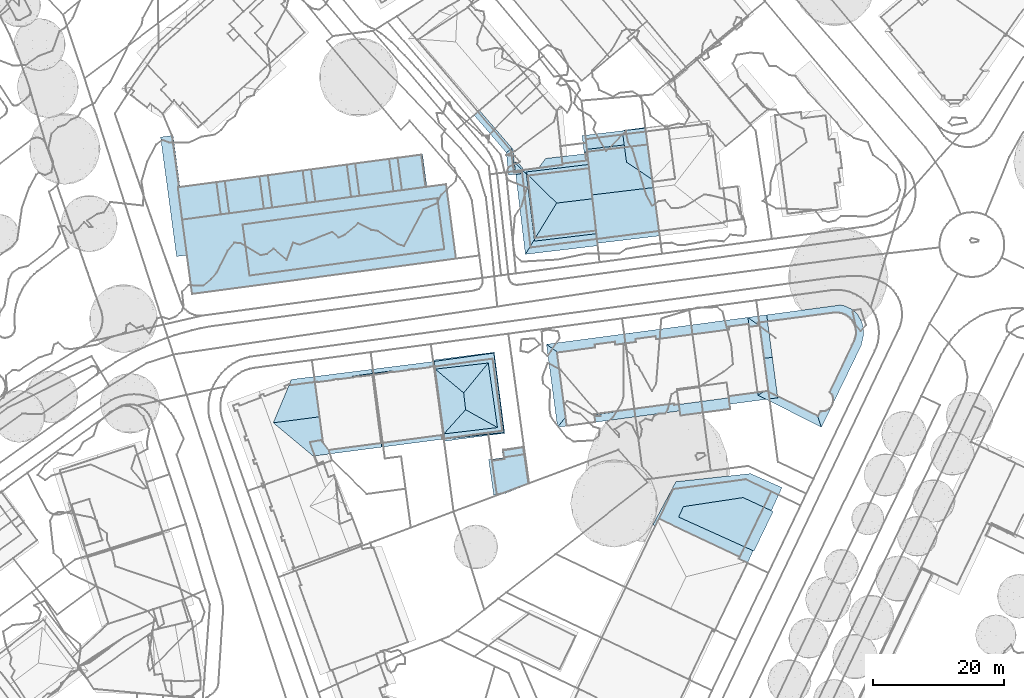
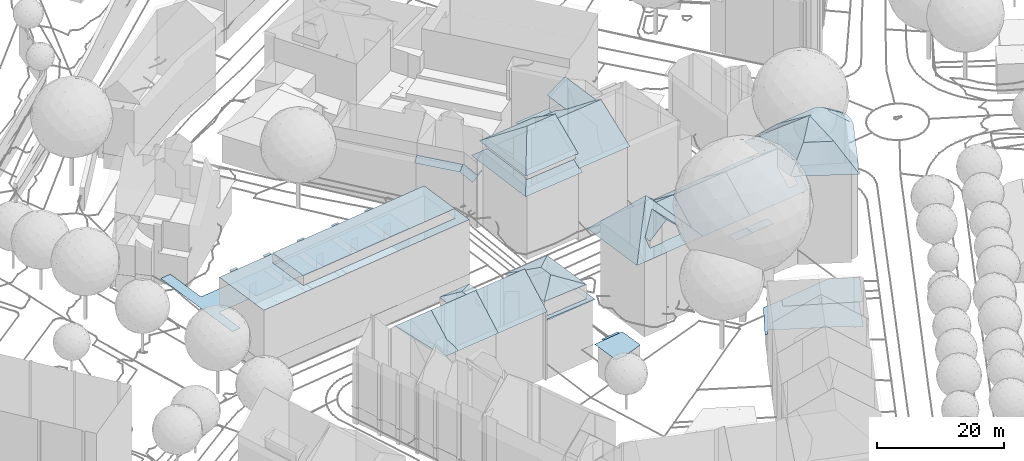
# Not in any storey, part 79 of 477: 29 roofs.
"""IFC4 building model written with IfcOpenShell, lengths in metres."""

from ifc_helpers import new_model, si_unit, frame, origin_with_axes, place, context, subcontext, project, spatial, polygons, element, save


model = new_model("IFC4")

# Units and contexts
model_context = context("Model", 3, precision=1e-05, world=origin_with_axes())
body_context = subcontext(model_context, "Body", "Model", "MODEL_VIEW")
ifc_project = project(units=[si_unit("AREAUNIT", "SQUARE_METRE"), si_unit("LENGTHUNIT", "METRE")], contexts=[model_context])

# Sites, building
site_1_placement = place(None, origin_with_axes())
site_1 = spatial("IfcSite", under=ifc_project, at=site_1_placement, Name="Topoexport Site")
site_2_placement = place(site_1_placement, origin_with_axes())
site_2 = spatial("IfcSite", under=site_1, at=site_2_placement, Name="TPX_BUILDINGS")
building_1_placement = place(site_2_placement, frame((511.1767320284, 156.3465160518, 499.6435), z_axis=(0.0, 0.0, 1.0), x_axis=(1.0, 0.0, 0.0)))
building_1 = spatial("IfcBuilding", under=site_2, at=building_1_placement, Name="Building 19", CompositionType="ELEMENT")

# Roofs
roof_1_placement = place(None, frame((511.1767320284, 156.3465160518, 499.6435), z_axis=(0.0, 0.0, 1.0), x_axis=(1.0, 0.0, 0.0)))
element("IfcRoof", 1, at=roof_1_placement, inside=building_1, Name="Roof 0", context=body_context, shape_type="Tessellation", body=[
    polygons([(2.057, -4.9600000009, 6.2974), (-0.5510000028, 0.183600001, 6.2974), (5.6009999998, -3.5645000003, 6.2974), (4.936999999, 0.9834000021, 6.2974), (0.2249999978, -5.2216999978, 6.2974)], [[[3, 2, 1]], [[3, 4, 2]], [[1, 2, 5]]]),
])
roof_2_placement = place(None, frame((511.1767320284, 156.3465160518, 499.6435), z_axis=(0.0, 0.0, 1.0), x_axis=(1.0, 0.0, 0.0)))
element("IfcRoof", 2, at=roof_2_placement, inside=building_1, Name="Roof 1", context=body_context, shape_type="Tessellation", body=[
    polygons([(4.7589999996, 2.067400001, 5.7094), (1.6519999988, 0.495099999, 5.7094), (1.4909999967, 1.5547000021, 5.7095), (4.936999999, 0.9834000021, 5.7094)], [[[3, 2, 1]], [[4, 1, 2]]]),
])

# Building
building_2_placement = place(site_2_placement, frame((541.9047320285, 175.7068160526, 499.9965), z_axis=(0.0, 0.0, 1.0), x_axis=(1.0, 0.0, 0.0)))
building_2 = spatial("IfcBuilding", under=site_2, at=building_2_placement, Name="Building 34", CompositionType="ELEMENT")

# Roofs
roof_3_placement = place(None, frame((541.9047320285, 175.7068160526, 499.9965), z_axis=(0.0, 0.0, 1.0), x_axis=(1.0, 0.0, 0.0)))
element("IfcRoof", 3, at=roof_3_placement, inside=building_2, Name="Roof 0", context=body_context, shape_type="Tessellation", body=[
    polygons([(5.7719999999, -11.4081999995, 11.4488), (1.3649999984, -10.2342999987, 11.4488), (5.5399999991, -9.6748000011, 11.4488), (1.5959999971, -11.9668000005, 11.4488)], [[[3, 2, 1]], [[1, 2, 4]]]),
])
roof_4_placement = place(None, frame((541.9047320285, 175.7068160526, 499.9965), z_axis=(0.0, 0.0, 1.0), x_axis=(1.0, 0.0, 0.0)))
element("IfcRoof", 4, at=roof_4_placement, inside=building_2, Name="Roof 1", context=body_context, shape_type="Tessellation", body=[
    polygons([(9.2049999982, 1.2256000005, 18.2712), (9.0219999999, -1.7421000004, 17.7032), (8.5829999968, 1.6055000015, 17.7033), (8.4479999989, 2.6367999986, 17.7033), (10.9149999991, -3.6464000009, 19.3361), (10.6679999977, -1.5029000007, 19.3701), (9.9579999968, -8.871100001, 17.7032), (9.5659999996, -5.8876999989, 17.7032), (10.8699999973, -8.7490000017, 18.6261), (10.0119999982, -9.2822000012, 17.7032), (11.5799999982, -8.308600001, 19.3891), (9.5139999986, 1.8456999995, 18.4682), (10.2969999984, 1.2657000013, 19.0301), (9.9729999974, 1.5058999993, 18.7971), (11.7059999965, -9.2430999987, 18.5372), (11.8349999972, -10.2080000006, 17.7032), (13.0259999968, -9.683600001, 14.3306), (1.4969999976, -11.2254999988, 14.3306), (9.9579999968, -8.871100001, 15.2985), (9.5989999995, -6.1356999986, 17.5033), (0.6689999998, -5.0166000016, 19.3361), (11.6259999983, -8.6484000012, 15.2985), (12.1959999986, -3.4754999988, 19.3361), (10.9809999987, -3.8379000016, 19.1771), (10.9549999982, -3.6416000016, 19.3361), (10.2219999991, 1.8262000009, 15.1235), (9.9349999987, 1.7881000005, 15.1235), (11.3269999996, 3.0214999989, 14.3306), (10.9269999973, -3.433600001, 19.1751), (8.6169999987, 1.6114000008, 15.1245), (8.5829999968, 1.6055000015, 15.1245), (8.6779999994, 1.1552999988, 15.4755), (-0.1980000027, 1.4805000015, 14.3306), (0.0, 0.0, 15.4715), (8.987999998, -1.4824000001, 17.5033), (9.9959999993, 1.3321000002, 15.4745), (10.2219999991, 1.8262000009, 18.7871), (10.0839999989, 2.8555000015, 17.7033), (10.2969999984, 1.2657000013, 19.3771), (9.9729999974, 1.5058999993, 19.0831)], [[[3, 2, 1]], [[3, 1, 4]], [[6, 1, 5]], [[9, 8, 7]], [[9, 7, 10]], [[5, 9, 11]], [[2, 5, 1]], [[5, 11, 6]], [[5, 8, 9]], [[4, 1, 12]], [[12, 1, 6]], [[14, 6, 13]], [[6, 14, 12]], [[9, 10, 15]], [[15, 11, 9]], [[10, 16, 15]], [[19, 18, 17]], [[18, 19, 20]], [[21, 20, 8]], [[20, 21, 18]], [[5, 21, 8]], [[17, 22, 19]], [[23, 22, 17]], [[23, 25, 24]], [[22, 23, 24]], [[28, 27, 26]], [[23, 29, 25]], [[29, 23, 26]], [[28, 26, 23]], [[28, 31, 30]], [[30, 27, 28]], [[30, 32, 27]], [[33, 31, 28]], [[34, 31, 33]], [[35, 34, 21]], [[2, 21, 5]], [[21, 2, 35]], [[31, 34, 35]], [[27, 32, 36]], [[38, 4, 37]], [[37, 40, 39]], [[40, 37, 4]]]),
])

# Building
building_3_placement = place(site_2_placement, frame((531.628732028, 174.3367160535, 499.9965), z_axis=(0.0, 0.0, 1.0), x_axis=(1.0, 0.0, 0.0)))
building_3 = spatial("IfcBuilding", under=site_2, at=building_3_placement, Name="Building 35", CompositionType="ELEMENT")

# Roofs
roof_5_placement = place(None, frame((531.628732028, 174.3367160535, 499.9965), z_axis=(0.0, 0.0, 1.0), x_axis=(1.0, 0.0, 0.0)))
element("IfcRoof", 5, at=roof_5_placement, inside=building_3, Name="Roof 0", context=body_context, shape_type="Tessellation", body=[
    polygons([(8.4100000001, -11.0595000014, 11.4488), (8.1779999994, -9.3271000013, 11.4488), (11.8719999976, -10.5967000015, 11.4488), (11.6409999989, -8.8641999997, 11.4488)], [[[3, 2, 1]], [[3, 4, 2]]]),
])
roof_6_placement = place(None, frame((531.628732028, 174.3367160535, 499.9965), z_axis=(0.0, 0.0, 1.0), x_axis=(1.0, 0.0, 0.0)))
element("IfcRoof", 6, at=roof_6_placement, inside=building_3, Name="Roof 1", context=body_context, shape_type="Tessellation", body=[
    polygons([(11.7729999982, -9.8553999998, 14.3306), (1.5159999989, -11.2265000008, 14.3306), (11.6409999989, -8.8641999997, 15.1295), (10.9450000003, -3.6465000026, 19.3361), (1.3530000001, -10.0175999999, 15.3055), (0.6779999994, -5.0175999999, 19.3361), (10.2760000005, 1.370099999, 15.4715), (10.0779999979, 2.8506000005, 14.3306), (0.0, 0.0, 15.4685), (-0.199000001, 1.4756000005, 14.3306)], [[[3, 2, 1]], [[5, 3, 4]], [[6, 5, 4]], [[5, 2, 3]], [[7, 6, 4]], [[9, 7, 8]], [[7, 9, 6]], [[9, 8, 10]]]),
])

# Building
building_4_placement = place(site_2_placement, frame((521.1327320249, 172.9256160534, 499.9965), z_axis=(0.0, 0.0, 1.0), x_axis=(1.0, 0.0, 0.0)))
building_4 = spatial("IfcBuilding", under=site_2, at=building_4_placement, Name="Building 36", CompositionType="ELEMENT")

# Roof
roof_7_placement = place(None, frame((521.1327320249, 172.9256160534, 499.9965), z_axis=(0.0, 0.0, 1.0), x_axis=(1.0, 0.0, 0.0)))
element("IfcRoof", 7, at=roof_7_placement, inside=building_4, Name="Roof 0", context=body_context, shape_type="Tessellation", body=[
    polygons([(3.1810000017, -8.5811000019, 16.8813), (6.1230000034, -5.6162, 19.5961), (6.626000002, -9.379900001, 19.5961), (3.3460000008, -9.8164000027, 16.8813), (10.3740000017, 2.3154000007, 14.7715), (10.4740000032, 1.5722999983, 15.3445), (8.870000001, 1.6561999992, 15.1185), (5.7780000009, 1.2412, 15.1195), (10.3840000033, 1.3964999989, 15.4685), (8.9310000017, 1.2011999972, 15.4685), (0.1650000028, 0.0224999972, 15.4735), (-0.9459999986, 0.8007999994, 14.7716), (5.8390000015, 0.7850999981, 15.4705), (0.0, 0.0, 15.3565), (0.8020000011, -10.5557000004, 14.9315), (1.3270000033, -9.9530999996, 15.3545), (0.5950000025, -10.7363000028, 14.7705), (5.7040000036, -9.4326000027, 15.3015), (11.8490000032, -8.6064999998, 15.3055), (11.9110000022, -9.0692999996, 14.9325), (5.7660000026, -9.8925999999, 14.9315), (11.8110000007, -8.3280999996, 15.5305), (7.745000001, -4.0654000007, 19.3361), (11.1740000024, -3.6064999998, 19.3361), (10.5090000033, 1.3134999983, 15.5445), (1.3980000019, -10.4766000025, 14.9305), (8.1610000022, -7.0117000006, 17.8332), (6.6166000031, -9.3095999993, 19.5961), (9.2630000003, -7.7666000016, 16.8813), (9.4290000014, -9.004900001, 16.8813), (1.3120000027, -9.8368999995, 15.8194), (-1.6439999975, 1.2899999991, 14.3306), (0.1640000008, 0.0224999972, 15.9914), (5.939000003, -4.0293000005, 21.2969), (0.0550000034, -11.4150000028, 14.3306), (11.7590000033, -8.6192000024, 15.6295), (13.0930000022, -9.6709000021, 14.3306), (5.8660000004, -10.6377000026, 14.3306), (9.4190000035, -8.933600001, 15.6275), (9.2880000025, -7.9530999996, 16.6814), (5.7130000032, -9.5020000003, 15.5515), (5.7040000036, -9.4326000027, 15.6255), (3.3460000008, -9.8164000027, 15.5525), (1.4970000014, -11.2217000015, 14.3306), (3.2060000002, -8.7666000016, 16.6814), (11.7780000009, -8.0800999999, 15.5305), (10.5440000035, 1.0537, 15.5435), (11.3940000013, 3.0341999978, 14.3306), (10.0990000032, 1.3583999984, 15.9834)], [[[3, 2, 1]], [[3, 1, 4]], [[7, 6, 5]], [[5, 8, 7]], [[6, 7, 9]], [[10, 9, 7]], [[8, 12, 11]], [[5, 12, 8]], [[11, 13, 8]], [[12, 14, 11]], [[14, 12, 15]], [[14, 15, 16]], [[15, 12, 17]], [[20, 19, 18]], [[18, 21, 20]], [[24, 23, 22]], [[24, 25, 23]], [[16, 15, 26]], [[2, 28, 27]], [[27, 28, 3]], [[30, 29, 3]], [[3, 29, 27]], [[33, 32, 31]], [[33, 31, 34]], [[31, 32, 35]], [[38, 37, 36]], [[38, 36, 39]], [[29, 36, 27]], [[40, 36, 29]], [[38, 39, 41]], [[42, 41, 39]], [[39, 36, 40]], [[38, 41, 43]], [[2, 34, 1]], [[34, 2, 27]], [[27, 36, 34]], [[1, 34, 31]], [[44, 43, 31]], [[44, 38, 43]], [[44, 31, 35]], [[31, 43, 45]], [[31, 45, 1]], [[37, 22, 36]], [[22, 37, 46]], [[22, 23, 36]], [[36, 23, 34]], [[37, 47, 46]], [[47, 48, 25]], [[48, 47, 37]], [[49, 34, 23]], [[23, 25, 49]], [[49, 25, 48]], [[49, 48, 33]], [[33, 34, 49]], [[32, 33, 48]]]),
])

# Building
building_5_placement = place(site_2_placement, frame((552.1267320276, 177.5330160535, 499.9185), z_axis=(0.0, 0.0, 1.0), x_axis=(1.0, 0.0, 0.0)))
building_5 = spatial("IfcBuilding", under=site_2, at=building_5_placement, Name="Building 37", CompositionType="ELEMENT")

# Roof
roof_8_placement = place(None, frame((552.1267320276, 177.5330160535, 499.9185), z_axis=(0.0, 0.0, 1.0), x_axis=(1.0, 0.0, 0.0)))
element("IfcRoof", 8, at=roof_8_placement, inside=building_5, Name="Roof 0", context=body_context, shape_type="Tessellation", body=[
    polygons([(14.0079999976, 0.5605999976, 18.7091), (15.0209999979, 1.3105999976, 17.7812), (14.0759999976, 0.4804999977, 18.6951), (12.0889999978, -1.2646000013, 20.615), (10.7809999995, -1.8525000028, 21.6739), (14.5469999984, -0.259800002, 18.6591), (15.6499999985, 0.191399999, 17.7812), (14.7559999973, -0.9189000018, 18.6462), (15.9289999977, -0.7685000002, 17.7812), (14.7740000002, -1.0117000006, 18.6551), (11.2899999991, -2.808600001, 21.6739), (12.9600000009, -2.0391000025, 20.261), (14.8029999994, -1.25, 18.7211), (14.7760000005, -1.9891999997, 18.7451), (15.930999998, -1.9570000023, 17.7812), (14.7410000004, -2.1757999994, 18.7801), (12.3939999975, 1.4736000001, 18.7711), (9.8350000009, -1.4530999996, 21.6739), (12.9450000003, 2.6083999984, 17.7812), (13.2100000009, 1.1757999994, 18.7231), (13.9849999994, 2.1415999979, 17.7812), (11.6449999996, 1.5351999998, 18.8721), (12.3499999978, 2.6983000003, 17.7812), (13.5099999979, 0.990199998, 18.7101), (14.3649999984, 1.8817999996, 17.7812), (14.175999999, -3.5419999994, 19.0551), (11.1559999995, -12.6357000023, 17.7812), (7.7210000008, -10.9365000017, 21.6739), (11.243999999, -3.6766999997, 21.6739), (15.6009999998, -3.4775000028, 17.7812), (8.8770000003, -14.2539000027, 19.1421), (9.498999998, -16.0381000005, 17.7812), (14.3029999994, -3.2763999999, 18.9531), (6.5009999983, -5.4297000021, 23.7087), (2.5260000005, -2.3779000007, 21.6739), (3.4120000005, -8.8594000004, 21.6739), (1.3579999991, -10.134800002, 19.4671), (1.4279999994, -10.6562000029, 18.9911), (1.4839999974, -11.0713, 18.6132), (1.612999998, -12.0342000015, 17.7812), (0.4459999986, -3.3291000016, 19.4481), (0.0789999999, -0.5859000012, 19.1081), (2.8000000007, -2.6387000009, 21.0569), (9.5969999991, 1.2753999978, 18.8721), (-0.1380000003, 1.0293000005, 17.7813), (0.0, 0.0, 18.8651), (0.0789999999, -0.563500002, 19.4551), (0.0789999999, -0.5859000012, 19.4551), (2.5260000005, -2.3779000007, 21.4739), (0.0789999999, -0.5859000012, 19.2551), (6.5009999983, -5.4297000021, 23.5087)], [[[3, 2, 1]], [[5, 4, 3]], [[5, 3, 1]], [[3, 4, 6]], [[7, 2, 3]], [[7, 3, 6]], [[4, 5, 8]], [[10, 9, 8]], [[10, 8, 5]], [[6, 4, 8]], [[9, 7, 6]], [[9, 6, 8]], [[12, 5, 11]], [[9, 10, 13]], [[13, 5, 12]], [[5, 13, 10]], [[12, 11, 14]], [[16, 15, 14]], [[16, 14, 11]], [[12, 14, 13]], [[13, 15, 9]], [[15, 13, 14]], [[18, 5, 17]], [[18, 17, 19]], [[17, 5, 20]], [[21, 19, 17]], [[21, 17, 20]], [[22, 18, 19]], [[19, 23, 22]], [[20, 5, 24]], [[25, 21, 20]], [[25, 20, 24]], [[24, 5, 1]], [[2, 25, 24]], [[2, 24, 1]], [[28, 27, 26]], [[28, 26, 29]], [[26, 27, 30]], [[32, 27, 31]], [[28, 31, 27]], [[30, 33, 26]], [[26, 11, 29]], [[11, 26, 33]], [[30, 15, 33]], [[16, 11, 33]], [[16, 33, 15]], [[11, 34, 29]], [[18, 35, 34]], [[5, 34, 11]], [[34, 5, 18]], [[28, 29, 34]], [[28, 34, 36]], [[38, 28, 37]], [[28, 36, 37]], [[28, 38, 39]], [[39, 40, 31]], [[31, 28, 39]], [[32, 31, 40]], [[41, 37, 36]], [[36, 34, 41]], [[43, 42, 41]], [[43, 41, 34]], [[22, 23, 44]], [[35, 18, 22]], [[35, 22, 44]], [[44, 23, 45]], [[44, 46, 35]], [[46, 44, 45]], [[35, 46, 47]], [[48, 34, 35]], [[50, 49, 43]], [[51, 43, 49]]]),
])

# Building
building_6_placement = place(site_2_placement, frame((509.0277320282, 209.8641160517, 500.1695), z_axis=(0.0, 0.0, 1.0), x_axis=(1.0, 0.0, 0.0)))
building_6 = spatial("IfcBuilding", under=site_2, at=building_6_placement, Name="Building 79", CompositionType="ELEMENT")

# Roof
roof_9_placement = place(None, frame((509.0277320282, 209.8641160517, 500.1695), z_axis=(0.0, 0.0, 1.0), x_axis=(1.0, 0.0, 0.0)))
element("IfcRoof", 9, at=roof_9_placement, inside=building_6, Name="Roof 0", context=body_context, shape_type="Tessellation", body=[
    polygons([(5.6569999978, -9.3594000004, 10.184), (6.4579999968, -9.2714999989, 10.841), (6.4839999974, -9.5458999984, 10.841), (4.9479999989, -5.8213, 9.8761), (4.6319999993, -9.7188000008, 9.3241), (4.3099999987, -6.2665999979, 9.3241), (5.2179999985, -5.6338, 10.109), (5.3200000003, -5.7509999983, 10.183), (0.2089999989, 0.1777000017, 10.1091), (0.0, 0.0, 9.9131), (-0.6290000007, -0.5370999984, 9.3241)], [[[3, 2, 1]], [[5, 1, 4]], [[5, 3, 1]], [[5, 4, 6]], [[8, 7, 4]], [[8, 4, 1]], [[4, 7, 9]], [[6, 4, 10]], [[10, 11, 6]], [[9, 10, 4]]]),
])

# Building
building_7_placement = place(site_2_placement, frame((525.5527320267, 205.6209160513, 499.3996), z_axis=(0.0, 0.0, 1.0), x_axis=(1.0, 0.0, 0.0)))
building_7 = spatial("IfcBuilding", under=site_2, at=building_7_placement, Name="Building 81", CompositionType="ELEMENT")

# Roofs
roof_10_placement = place(None, frame((525.5527320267, 205.6209160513, 499.3996), z_axis=(0.0, 0.0, 1.0), x_axis=(1.0, 0.0, 0.0)))
element("IfcRoof", 10, at=roof_10_placement, inside=building_7, Name="Roof 0", context=body_context, shape_type="Tessellation", body=[
    polygons([(5.6440000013, 0.7178000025, 13.9586), (9.1259999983, 1.7393000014, 13.9586), (9.2019999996, 1.1709000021, 13.9586), (0.1700000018, -1.5302999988, 13.9586), (5.8520000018, -0.8506000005, 13.9586), (-0.6050000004, 0.5742000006, 13.9586), (-0.2980000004, -1.9882999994, 13.9586), (0.2149999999, -1.9267999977, 13.9586)], [[[3, 2, 1]], [[5, 1, 4]], [[2, 6, 1]], [[4, 6, 7]], [[6, 4, 1]], [[7, 8, 4]]]),
])
roof_11_placement = place(None, frame((525.5527320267, 205.6209160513, 499.3996), z_axis=(0.0, 0.0, 1.0), x_axis=(1.0, 0.0, 0.0)))
element("IfcRoof", 11, at=roof_11_placement, inside=building_7, Name="Roof 1", context=body_context, shape_type="Tessellation", body=[
    polygons([(5.6440000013, 0.7178000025, 16.5954), (5.5579999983, 1.3652000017, 16.5954), (9.1119999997, 1.8368999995, 18.6182), (9.2019999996, 1.1709000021, 18.6182), (10.1770000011, -6.1688999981, 18.6182), (6.2019999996, -3.4872999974, 16.5954), (1.2019999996, -14.5029000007, 15.4795), (1.6099999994, -14.4540999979, 15.4795), (1.3779999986, -15.9696999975, 14.5096), (11.2259999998, -14.0683999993, 14.9795), (10.3379999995, -7.3817999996, 19.4071), (0.9479999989, -8.5067999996, 19.4071), (11.3200000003, -14.7782999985, 14.5095), (0.1700000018, -1.5302999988, 14.8795), (0.4279999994, -3.8436999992, 16.3814), (-0.3460000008, -1.5918000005, 14.8795), (-0.0689999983, -3.9043000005, 16.3814), (5.8520000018, -0.8506000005, 14.8805), (6.1609999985, -3.1787, 16.3954)], [[[3, 2, 1]], [[3, 1, 4]], [[4, 6, 5]], [[6, 4, 1]], [[9, 8, 7]], [[9, 10, 8]], [[8, 10, 11]], [[8, 11, 12]], [[13, 10, 9]], [[16, 15, 14]], [[15, 16, 17]], [[18, 14, 15]], [[15, 12, 6]], [[5, 6, 12]], [[15, 19, 18]], [[19, 15, 6]], [[5, 12, 11]]]),
])

# Building
building_8_placement = place(site_2_placement, frame((514.7257320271, 200.7361160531, 500.1685), z_axis=(0.0, 0.0, 1.0), x_axis=(1.0, 0.0, 0.0)))
building_8 = spatial("IfcBuilding", under=site_2, at=building_8_placement, Name="Building 82", CompositionType="ELEMENT")

# Roofs
roof_12_placement = place(None, frame((514.7257320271, 200.7361160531, 500.1685), z_axis=(0.0, 0.0, 1.0), x_axis=(1.0, 0.0, 0.0)))
element("IfcRoof", 12, at=roof_12_placement, inside=building_8, Name="Roof 0", context=body_context, shape_type="Tessellation", body=[
    polygons([(6.3260000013, -4.8759000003, 20.1511), (12.436999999, -9.5692999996, 16.5144), (2.9069999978, -10.4774999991, 16.6704), (2.256000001, -11.5439000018, 16.0074), (12.5199999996, -10.3154000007, 16.0074), (11.8409999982, -4.2168000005, 20.1511), (11.254999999, 1.0410000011, 16.5214), (11.1719999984, 1.7841999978, 16.0075), (1.6660000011, -0.2987999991, 16.6514), (0.8090000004, 0.5439999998, 16.0075)], [[[3, 2, 1]], [[5, 3, 4]], [[2, 6, 1]], [[2, 3, 5]], [[7, 1, 6]], [[9, 7, 8]], [[7, 9, 1]], [[9, 8, 10]], [[9, 10, 4]], [[3, 1, 9]], [[4, 3, 9]]]),
])
roof_13_placement = place(None, frame((514.7257320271, 200.7361160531, 500.1685), z_axis=(0.0, 0.0, 1.0), x_axis=(1.0, 0.0, 0.0)))
element("IfcRoof", 13, at=roof_13_placement, inside=building_8, Name="Roof 1", context=body_context, shape_type="Tessellation", body=[
    polygons([(10.7399999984, 2.6855999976, 13.0247), (11.068, 2.7245999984, 13.0247), (11.1519999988, 1.9648999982, 13.6867), (11.254999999, 1.0410999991, 14.4916), (3.5219999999, 0.4638999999, 14.1916), (4.623999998, 1.9531999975, 13.0248), (-0.1649999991, 1.379900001, 13.0248), (0.3509999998, 1.441399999, 13.0248), (1.0760000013, 0.1415999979, 14.2166), (1.6429999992, -0.1112999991, 14.4916), (1.686999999, -0.4686999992, 14.8036), (1.3460000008, 0.1767999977, 14.2136), (2.9160000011, -10.4638000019, 14.8386), (2.9349999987, -10.7070000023, 14.6266), (2.3220000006, -11.4365000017, 14.0636), (12.6420000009, -11.4090999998, 13.0247), (1.5260000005, -12.7402000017, 13.0247), (12.5300000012, -10.4033000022, 13.9006), (12.436999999, -9.5692999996, 14.6266), (0.0269999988, -0.2246000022, 13.0248), (0.0, 0.0, 13.0248)], [[[3, 2, 1]], [[5, 4, 3]], [[3, 1, 6]], [[6, 5, 3]], [[9, 8, 7]], [[11, 10, 9]], [[12, 9, 10]], [[9, 12, 8]], [[10, 5, 12]], [[10, 4, 5]], [[15, 14, 13]], [[15, 17, 16]], [[15, 18, 14]], [[18, 15, 16]], [[14, 18, 19]], [[21, 20, 9]], [[9, 7, 21]], [[20, 15, 9]], [[13, 9, 15]], [[11, 9, 13]], [[15, 20, 17]]]),
])

# Building
building_9_placement = place(site_2_placement, frame((463.0307320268, 198.249816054, 500.4205), z_axis=(0.0, 0.0, 1.0), x_axis=(1.0, 0.0, 0.0)))
building_9 = spatial("IfcBuilding", under=site_2, at=building_9_placement, Name="Building 89", CompositionType="ELEMENT")

# Roofs
roof_14_placement = place(None, frame((463.0307320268, 198.249816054, 500.4205), z_axis=(0.0, 0.0, 1.0), x_axis=(1.0, 0.0, 0.0)))
element("IfcRoof", 14, at=roof_14_placement, inside=building_9, Name="Roof 0", context=body_context, shape_type="Tessellation", body=[
    polygons([(0.6629999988, -4.9492000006, 5.7815), (1.3889999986, -10.3662, 5.7815), (-0.2199999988, -10.5820000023, 5.7815), (-2.6710000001, 7.7206999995, 5.7815), (7.2129999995, 0.9677999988, 5.7815), (13.1790000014, -3.2734000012, 5.7815), (7.8759999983, -3.9834000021, 5.7815), (6.5870000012, -4.1562000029, 5.7815), (5.9239999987, 0.7949000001, 5.7815), (-0.7470000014, 7.9784999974, 5.7815), (0.2980000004, 0.1796999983, 5.7815), (13.8040000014, 1.8524999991, 5.7815), (12.5159999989, 1.6796999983, 5.7815), (19.1369999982, 2.5683999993, 5.7815), (37.4679999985, 5.1581999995, 5.7814), (19.8000000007, -2.3857000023, 5.7815), (14.4679999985, -3.1006000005, 5.7815), (21.0890000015, -2.2129000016, 5.7814), (20.425999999, 2.7412, 5.7815), (26.5670000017, -1.4805000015, 5.7814), (33.0500000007, -0.6113000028, 5.7814), (27.8550000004, -1.3066000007, 5.7814), (27.1909999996, 3.6484999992, 5.7815), (34.3390000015, -0.4394000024, 5.7814), (33.6750000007, 4.5185999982, 5.7814), (38.1490000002, 0.0722999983, 5.7814), (25.9030000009, 3.4755999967, 5.7815), (32.3859999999, 4.3456999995, 5.7814)], [[[3, 2, 1]], [[3, 1, 4]], [[7, 6, 5]], [[9, 1, 8]], [[4, 11, 10]], [[11, 4, 1]], [[9, 5, 11]], [[13, 12, 11]], [[12, 14, 11]], [[5, 6, 13]], [[5, 13, 11]], [[11, 1, 9]], [[14, 15, 11]], [[17, 16, 12]], [[20, 19, 18]], [[23, 22, 21]], [[26, 25, 24]], [[20, 27, 19]], [[15, 27, 23]], [[15, 19, 27]], [[25, 15, 28]], [[15, 25, 26]], [[23, 28, 15]], [[28, 23, 21]], [[15, 14, 19]], [[16, 14, 12]]]),
])
roof_15_placement = place(None, frame((463.0307320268, 198.249816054, 500.4205), z_axis=(0.0, 0.0, 1.0), x_axis=(1.0, 0.0, 0.0)))
element("IfcRoof", 15, at=roof_15_placement, inside=building_9, Name="Roof 1", context=body_context, shape_type="Tessellation", body=[
    polygons([(9.9279999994, -5.6982000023, 12.5258), (10.9860000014, -13.5215000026, 12.5258), (2.1889999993, -16.3369000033, 12.5258), (42.6259999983, -10.9238000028, 12.5258), (0.6629999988, -4.9492000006, 12.5258), (39.7729999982, -1.6601999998, 12.5258), (40.8319999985, -9.4854000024, 12.5258), (41.1009999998, 0.4667999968, 12.5258)], [[[3, 2, 1]], [[2, 3, 4]], [[1, 5, 3]], [[7, 4, 6]], [[4, 7, 2]], [[5, 6, 8]], [[5, 1, 6]], [[8, 6, 4]]]),
])
roof_16_placement = place(None, frame((463.0307320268, 198.249816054, 500.4205), z_axis=(0.0, 0.0, 1.0), x_axis=(1.0, 0.0, 0.0)))
element("IfcRoof", 16, at=roof_16_placement, inside=building_9, Name="Roof 2", context=body_context, shape_type="Tessellation", body=[
    polygons([(7.8759999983, -3.9834000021, 8.4932), (6.5870000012, -4.1562000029, 8.4932), (5.9059999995, 0.9306999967, 8.4932), (7.1950000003, 1.1024999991, 8.4932)], [[[3, 2, 1]], [[3, 1, 4]]]),
])
roof_17_placement = place(None, frame((463.0307320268, 198.249816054, 500.4205), z_axis=(0.0, 0.0, 1.0), x_axis=(1.0, 0.0, 0.0)))
element("IfcRoof", 17, at=roof_17_placement, inside=building_9, Name="Roof 3", context=body_context, shape_type="Tessellation", body=[
    polygons([(12.4979999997, 1.8134999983, 8.4932), (13.7859999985, 1.9862999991, 8.4932), (13.1790000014, -3.2734000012, 8.4932), (14.4679999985, -3.1006000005, 8.4932)], [[[3, 2, 1]], [[3, 4, 2]]]),
])
roof_18_placement = place(None, frame((463.0307320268, 198.249816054, 500.4205), z_axis=(0.0, 0.0, 1.0), x_axis=(1.0, 0.0, 0.0)))
element("IfcRoof", 18, at=roof_18_placement, inside=building_9, Name="Roof 4", context=body_context, shape_type="Tessellation", body=[
    polygons([(40.8319999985, -9.4853000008, 14.3936), (10.9860000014, -13.5215000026, 14.3936), (9.9279999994, -5.6982000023, 14.3936), (39.7729999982, -1.6601999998, 14.3936)], [[[3, 2, 1]], [[1, 4, 3]]]),
])
roof_19_placement = place(None, frame((463.0307320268, 198.249816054, 500.4205), z_axis=(0.0, 0.0, 1.0), x_axis=(1.0, 0.0, 0.0)))
element("IfcRoof", 19, at=roof_19_placement, inside=building_9, Name="Roof 5", context=body_context, shape_type="Tessellation", body=[
    polygons([(26.5670000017, -1.4805000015, 8.4932), (25.8850000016, 3.6064999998, 8.4932), (27.8550000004, -1.3066000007, 8.4932), (27.1739999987, 3.7792999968, 8.4932)], [[[3, 2, 1]], [[2, 3, 4]]]),
])
roof_20_placement = place(None, frame((463.0307320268, 198.249816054, 500.4205), z_axis=(0.0, 0.0, 1.0), x_axis=(1.0, 0.0, 0.0)))
element("IfcRoof", 20, at=roof_20_placement, inside=building_9, Name="Roof 6", context=body_context, shape_type="Tessellation", body=[
    polygons([(32.368999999, 4.4745999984, 8.4932), (33.6579999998, 4.6474999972, 8.4932), (33.0500000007, -0.6113000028, 8.4932), (34.3390000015, -0.4394000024, 8.4932)], [[[3, 2, 1]], [[2, 3, 4]]]),
])
roof_21_placement = place(None, frame((463.0307320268, 198.249816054, 500.4205), z_axis=(0.0, 0.0, 1.0), x_axis=(1.0, 0.0, 0.0)))
element("IfcRoof", 21, at=roof_21_placement, inside=building_9, Name="Roof 7", context=body_context, shape_type="Tessellation", body=[
    polygons([(20.4079999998, 2.8730999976, 8.4932), (19.8000000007, -2.3857000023, 8.4932), (19.118999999, 2.7001999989, 8.4932), (21.0890000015, -2.2129000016, 8.4932)], [[[3, 2, 1]], [[1, 2, 4]]]),
])

# Building
building_10_placement = place(site_2_placement, frame((531.6427320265, 136.9305160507, 499.2035), z_axis=(0.0, 0.0, 1.0), x_axis=(1.0, 0.0, 0.0)))
building_10 = spatial("IfcBuilding", under=site_2, at=building_10_placement, Name="Building 123", CompositionType="ELEMENT")

# Roofs
roof_22_placement = place(None, frame((531.6427320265, 136.9305160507, 499.2035), z_axis=(0.0, 0.0, 1.0), x_axis=(1.0, 0.0, 0.0)))
element("IfcRoof", 22, at=roof_22_placement, inside=building_10, Name="Roof 1", context=body_context, shape_type="Tessellation", body=[
    polygons([(4.8920000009, 10.2031000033, 5.7874), (4.5309999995, 9.451100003, 5.7874), (4.1539999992, 9.6240000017, 5.7874), (5.0969999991, 10.5166000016, 5.7874), (4.936999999, 10.1816000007, 5.7874), (7.675999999, 16.2265000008, 5.7875), (17.4730000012, 4.6709000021, 5.7874), (18.6519999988, 3.763600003, 5.7874), (17.3390000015, 4.3935000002, 5.7874), (23.9349999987, 15.3408000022, 5.7874), (19.1119999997, 17.4746000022, 5.7874)], [[[3, 2, 1]], [[4, 3, 1]], [[4, 1, 5]], [[3, 4, 6]], [[9, 8, 7]], [[7, 8, 10]], [[11, 6, 7]], [[11, 7, 10]], [[7, 6, 4]]]),
])
roof_23_placement = place(None, frame((531.6427320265, 136.9305160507, 499.2035), z_axis=(0.0, 0.0, 1.0), x_axis=(1.0, 0.0, 0.0)))
element("IfcRoof", 23, at=roof_23_placement, inside=building_10, Name="Roof 2", context=body_context, shape_type="Tessellation", body=[
    polygons([(19.6510000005, 5.6006000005, 9.1711), (8.0980000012, 10.817400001, 9.1711), (8.8390000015, 12.4199000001, 9.1711), (22.5780000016, 11.6699000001, 9.1711), (17.9789999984, 13.8017000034, 9.1711)], [[[3, 2, 1]], [[5, 1, 4]], [[1, 5, 3]]]),
])

# Building
building_11_placement = place(site_2_placement, frame((502.3847320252, 170.8484160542, 499.6645), z_axis=(0.0, 0.0, 1.0), x_axis=(1.0, 0.0, 0.0)))
building_11 = spatial("IfcBuilding", under=site_2, at=building_11_placement, Name="Building 128", CompositionType="ELEMENT")

# Roofs
roof_24_placement = place(None, frame((502.3847320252, 170.8484160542, 499.6645), z_axis=(0.0, 0.0, 1.0), x_axis=(1.0, 0.0, 0.0)))
element("IfcRoof", 24, at=roof_24_placement, inside=building_11, Name="Roof 0", context=body_context, shape_type="Tessellation", body=[
    polygons([(4.4220000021, -4.0800000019, 16.1955), (0.0580000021, -0.4316000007, 14.3046), (8.1840000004, 0.5068999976, 14.3976), (9.6030000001, -9.3867000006, 14.3126), (4.7180000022, -6.6513000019, 16.2035), (1.3839999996, -10.3593000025, 14.4626), (0.7130000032, -5.3320000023, 14.3826)], [[[3, 2, 1]], [[5, 4, 1]], [[3, 1, 4]], [[6, 4, 5]], [[7, 6, 5]], [[1, 2, 7]], [[1, 7, 5]]]),
])
roof_25_placement = place(None, frame((502.3847320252, 170.8484160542, 499.6645), z_axis=(0.0, 0.0, 1.0), x_axis=(1.0, 0.0, 0.0)))
element("IfcRoof", 25, at=roof_25_placement, inside=building_11, Name="Roof 1", context=body_context, shape_type="Tessellation", body=[
    polygons([(7.1860000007, 0.3925999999, 11.5399), (9.0410000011, 2.0312999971, 11.5429), (8.1840000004, 0.5068999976, 11.5429), (9.1490000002, -9.4404000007, 11.5609), (9.6030000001, -9.3867000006, 11.5619), (10.6140000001, -10.1543000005, 11.5659), (0.0, 0.0, 11.5219), (-0.0989999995, 0.7470999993, 11.5199), (0.0580000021, -0.4316000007, 11.5229), (1.4840000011, -11.1054000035, 11.5429), (1.3839999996, -10.3593000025, 11.5409), (1.4880000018, -11.1328000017, 11.5429)], [[[3, 2, 1]], [[6, 5, 4]], [[3, 5, 6]], [[6, 2, 3]], [[1, 8, 7]], [[8, 1, 2]], [[7, 9, 1]], [[4, 11, 10]], [[10, 12, 4]], [[4, 12, 6]]]),
])
roof_26_placement = place(None, frame((502.3847320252, 170.8484160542, 499.6645), z_axis=(0.0, 0.0, 1.0), x_axis=(1.0, 0.0, 0.0)))
element("IfcRoof", 26, at=roof_26_placement, inside=building_11, Name="Roof 2", context=body_context, shape_type="Tessellation", body=[
    polygons([(1.5360000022, -11.4873000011, 11.5429), (1.5310000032, -11.451100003, 11.5429), (3.6350000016, -11.1796000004, 11.5479), (1.4840000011, -11.1054000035, 11.5419), (1.4120000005, -11.4668000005, 11.5419), (1.3680000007, -11.1220000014, 11.5419), (9.6030000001, -9.3867000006, 11.5619), (10.7210000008, -10.2646000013, 11.5659), (1.3839999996, -10.3593000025, 11.5409), (8.1840000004, 0.5068999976, 11.5429), (9.1170000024, 2.1650999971, 11.5429), (-0.1919999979, 0.9628999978, 11.5189), (0.0, 0.0, 11.5209), (-0.0669999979, -0.008700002, 11.5209), (0.0580000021, -0.4316000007, 11.5219), (1.4120000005, -11.4668000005, 11.3419), (1.3680000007, -11.1220000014, 11.3419), (1.3940000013, -11.1181000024, 11.3919)], [[[3, 2, 1]], [[2, 3, 4]], [[6, 5, 4]], [[5, 2, 4]], [[3, 8, 7]], [[3, 9, 4]], [[3, 7, 9]], [[10, 7, 8]], [[12, 10, 11]], [[8, 11, 10]], [[12, 13, 10]], [[13, 12, 14]], [[15, 10, 13]], [[18, 17, 16]]]),
])

# Building
building_12_placement = place(site_2_placement, frame((484.0377320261, 168.4207160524, 499.5076), z_axis=(0.0, 0.0, 1.0), x_axis=(1.0, 0.0, 0.0)))
building_12 = spatial("IfcBuilding", under=site_2, at=building_12_placement, Name="Building 129", CompositionType="ELEMENT")

# Roof
roof_27_placement = place(None, frame((484.0377320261, 168.4207160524, 499.5076), z_axis=(0.0, 0.0, 1.0), x_axis=(1.0, 0.0, 0.0)))
element("IfcRoof", 27, at=roof_27_placement, inside=building_12, Name="Roof 0", context=body_context, shape_type="Tessellation", body=[
    polygons([(6.0, -1.1035000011, 14.9625), (9.1700000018, -1.6893999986, 15.8574), (9.4840000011, -4.1561999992, 18.0972), (0.0190000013, -0.1405999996, 13.3997), (0.7120000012, -5.3027000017, 18.0912), (5.9820000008, -0.9472999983, 14.8185), (-0.0889999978, 0.6631000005, 12.6617), (5.7919999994, 0.6856000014, 13.3257), (6.0760000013, 0.7236000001, 13.3247), (6.0659999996, 0.8027000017, 13.2527), (6.6909999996, 0.8856999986, 13.2507), (8.819000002, 1.0683999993, 13.3347), (6.7010000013, 0.8066000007, 13.3227), (8.7890000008, 1.3027000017, 13.1197), (-0.1140000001, 0.8524999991, 12.4808), (8.7039999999, 1.9677999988, 12.4827), (5.7640000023, 0.9237999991, 15.0095), (11.6810000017, 1.7206999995, 15.0095), (9.2120000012, -0.4219000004, 15.7874), (9.0289999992, -0.5810000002, 15.8454), (9.8790000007, -7.2606999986, 15.4335), (2.1359999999, -10.4189000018, 13.6186), (1.251000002, -9.3192999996, 14.6435), (10.1469999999, -9.3623000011, 13.6296), (2.2750000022, -10.871100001, 13.2217), (10.2230000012, -9.9600000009, 13.1167), (2.313000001, -10.9921999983, 13.1147), (9.3680000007, -1.5967000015, 15.7974), (11.9539999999, -0.3964999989, 15.0195), (5.7919999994, 0.6856000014, 15.0105), (6.0, -1.1035000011, 15.0195)], [[[3, 2, 1]], [[3, 1, 4]], [[4, 5, 3]], [[4, 1, 6]], [[6, 8, 7]], [[4, 6, 7]], [[10, 8, 9]], [[8, 10, 7]], [[7, 10, 11]], [[11, 13, 12]], [[12, 14, 11]], [[11, 14, 7]], [[15, 7, 14]], [[14, 16, 15]], [[19, 18, 17]], [[17, 20, 19]], [[5, 22, 21]], [[5, 23, 22]], [[22, 25, 24]], [[27, 26, 24]], [[3, 5, 21]], [[21, 22, 24]], [[25, 27, 24]], [[2, 28, 20]], [[20, 28, 19]], [[19, 29, 18]], [[29, 19, 28]], [[17, 30, 20]], [[31, 2, 20]], [[31, 20, 30]]]),
])

# Building
building_13_placement = place(site_2_placement, frame((492.8567320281, 169.4891160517, 499.5076), z_axis=(0.0, 0.0, 1.0), x_axis=(1.0, 0.0, 0.0)))
building_13 = spatial("IfcBuilding", under=site_2, at=building_13_placement, Name="Building 130", CompositionType="ELEMENT")

# Roof
roof_28_placement = place(None, frame((492.8567320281, 169.4891160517, 499.5076), z_axis=(0.0, 0.0, 1.0), x_axis=(1.0, 0.0, 0.0)))
element("IfcRoof", 28, at=roof_28_placement, inside=building_13, Name="Roof 0", context=body_context, shape_type="Tessellation", body=[
    polygons([(1.4039999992, -11.0284000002, 13.1167), (10.8149999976, -8.2734999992, 14.4075), (10.9119999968, -9.0, 13.7836), (11.0119999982, -9.746100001, 13.1427), (1.0599999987, -8.3290999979, 15.4335), (10.2410000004, -3.9726999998, 18.1042), (1.3279999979, -10.4307000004, 13.6296), (11.0159999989, -9.7734999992, 13.1197), (0.6649999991, -5.2245999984, 18.0972), (0.3209999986, -2.5243999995, 15.6454), (0.5189999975, -2.4433999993, 15.5954), (0.1919999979, 0.0234000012, 13.3357), (0.0, 0.0, 13.3347), (-0.0300000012, 0.2343000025, 13.1197), (2.5859999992, 0.4228000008, 13.2547), (9.5859999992, 0.9277000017, 13.6146), (9.5279999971, 1.3593000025, 13.2007), (9.4289999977, 2.1064000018, 12.4857), (-0.1150000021, 0.8993999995, 12.4827)], [[[3, 2, 1]], [[4, 3, 1]], [[2, 6, 5]], [[1, 2, 7]], [[8, 4, 1]], [[7, 2, 5]], [[5, 6, 9]], [[6, 10, 9]], [[11, 10, 6]], [[14, 13, 12]], [[14, 12, 15]], [[11, 15, 12]], [[11, 6, 15]], [[15, 6, 16]], [[15, 16, 17]], [[17, 18, 14]], [[14, 15, 17]], [[18, 19, 14]]]),
])

# Building
building_14_placement = place(site_2_placement, frame((471.492732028, 164.8240160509, 499.4976), z_axis=(0.0, 0.0, 1.0), x_axis=(1.0, 0.0, 0.0)))
building_14 = spatial("IfcBuilding", under=site_2, at=building_14_placement, Name="Building 131", CompositionType="ELEMENT")

# Roof
roof_29_placement = place(None, frame((471.492732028, 164.8240160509, 499.4976), z_axis=(0.0, 0.0, 1.0), x_axis=(1.0, 0.0, 0.0)))
element("IfcRoof", 29, at=roof_29_placement, inside=building_14, Name="Roof 0", context=body_context, shape_type="Tessellation", body=[
    polygons([(13.7960000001, -5.7225999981, 14.6535), (12.5149999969, -7.7030999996, 13.1227), (6.1339999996, -2.6376999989, 18.0962), (14.680999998, -6.8222000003, 13.6286), (12.2579999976, -7.7372999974, 13.1227), (8.5969999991, 3.246100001, 13.1307), (8.9149999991, 4.004900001, 12.4898), (12.106999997, 3.5391000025, 13.2807), (13.2569999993, -1.7060000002, 18.1012), (12.561999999, 3.4726999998, 13.3937), (12.5449999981, 3.5967000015, 13.2797), (12.4560000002, 4.259800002, 12.6717), (12.430999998, 4.4492000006, 12.4908), (14.856999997, -7.3954999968, 13.1247)], [[[3, 2, 1]], [[1, 2, 4]], [[2, 3, 5]], [[8, 7, 6]], [[10, 8, 9]], [[3, 9, 8]], [[3, 8, 6]], [[10, 11, 8]], [[12, 7, 8]], [[12, 8, 11]], [[7, 12, 13]], [[3, 1, 9]], [[4, 2, 14]]]),
])

save(model, "model.ifc")
